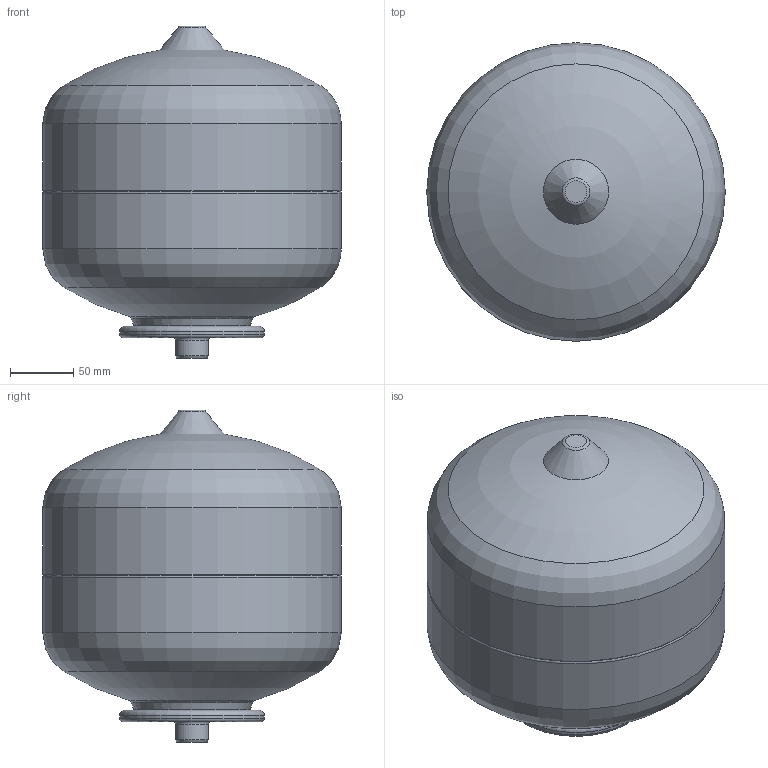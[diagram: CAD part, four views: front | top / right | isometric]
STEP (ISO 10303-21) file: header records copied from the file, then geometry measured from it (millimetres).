
FILE_DESCRIPTION(('STEP AP242'), '1');
FILE_NAME('VT.A.R.050008', '', ('UNSPECIFIED'), ('UNSPECIFIED'), 'C3D Converter', 'C3D Toolkit', '');
FILE_SCHEMA(('AP242_MANAGED_MODEL_BASED_3D_ENGINEERING_MIM_LF { 1 0 10303 442 1 1 4 }'));
Length unit declared in the file: millimetre
Bounding box: 235 x 235 x 261.47 mm (x, y, z)
Volume: 7765729.8 mm3; surface area: 210337.9 mm2
Topology: 1 solids, 1 shells, 41 faces, 112 edges, 80 vertices
Faces by surface type: torus 17, plane 9, cone 7, cylinder 6, sphere 2
Full cylindrical faces by diameter (mm): 20 x1, 26 x1, 78 x1, 114 x1, 235 x2
Entity records: 1254 total; most frequent: DIRECTION 244, CARTESIAN_POINT 202, ORIENTED_EDGE 160, AXIS2_PLACEMENT_3D 122, FACE_BOUND 80, EDGE_LOOP 80, EDGE_CURVE 80, VERTEX_POINT 80
